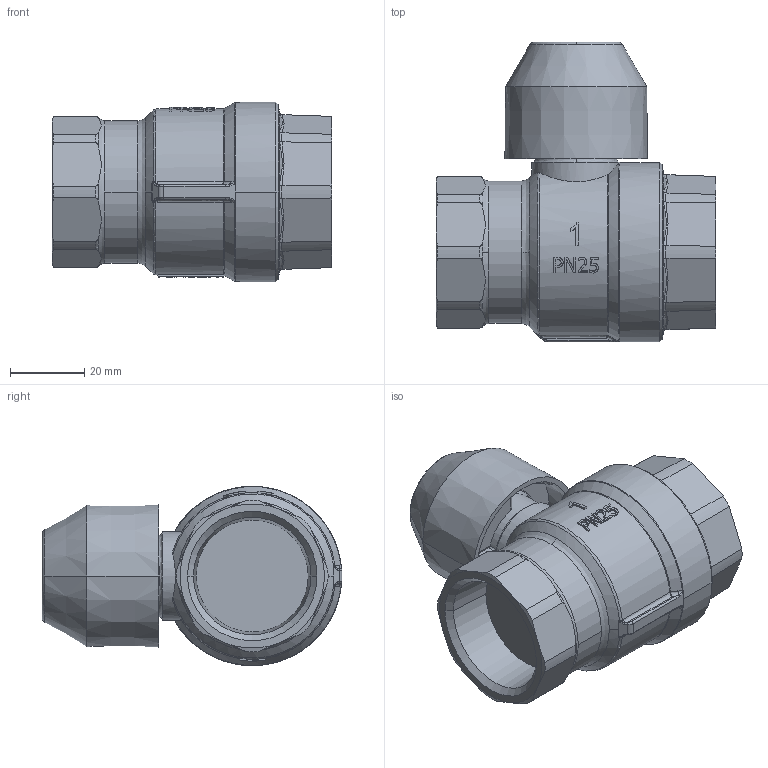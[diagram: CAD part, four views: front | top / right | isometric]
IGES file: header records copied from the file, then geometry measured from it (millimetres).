
Global section: file name: No Iges File Name specified; native system: AutoDesk Inventor R12.0; preprocessor: AutoDesk Inventor Iges Exporter R12.0; date: 20110214.150712; units: millimetre
Bounding box: 75.55 x 81.05 x 48.5 mm (x, y, z)
Volume: 115881.2 mm3; surface area: 27738.9 mm2
Topology: 1 solids, 1 shells, 506 faces, 1358 edges, 867 vertices
Faces by surface type: plane 213, bspline 136, cylinder 53, cone 42, revolution 37, torus 25
Full cylindrical faces by diameter (mm): 23.96 x1
